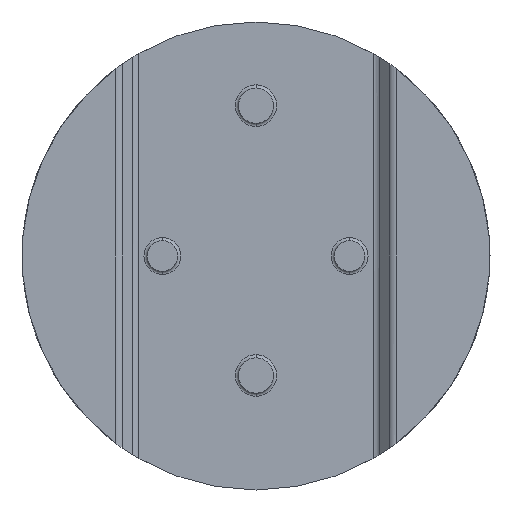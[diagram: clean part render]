
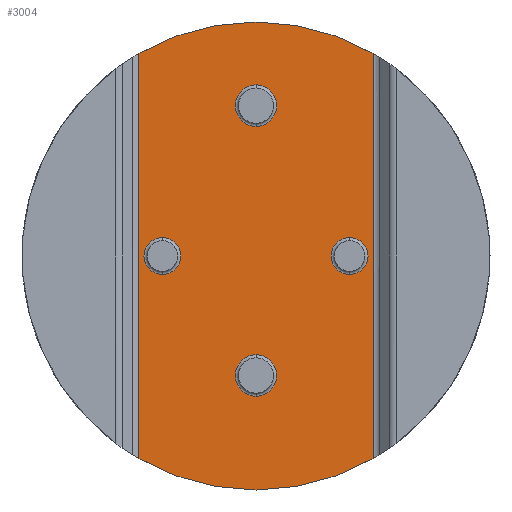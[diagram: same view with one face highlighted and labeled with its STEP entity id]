
A CAD part, front view. The second image highlights one B-rep face of the part: STEP entity #3004.
In plain terms, the highlighted planar face has unit normal (0, -1, 0).
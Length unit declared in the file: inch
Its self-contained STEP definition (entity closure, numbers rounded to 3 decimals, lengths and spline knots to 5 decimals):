
#15 = CIRCLE ( 'NONE', #861, 0.0665 ) ;
#120 = VERTEX_POINT ( 'NONE', #901 ) ;
#124 = DIRECTION ( 'NONE',  ( 0., 0., 1. ) ) ;
#130 = CIRCLE ( 'NONE', #5079, 0.059 ) ;
#392 = DIRECTION ( 'NONE',  ( 0., 0., 1. ) ) ;
#403 = DIRECTION ( 'NONE',  ( 0., 1., 0. ) ) ;
#542 = VERTEX_POINT ( 'NONE', #4634 ) ;
#563 = LINE ( 'NONE', #5897, #5109 ) ;
#641 = ORIENTED_EDGE ( 'NONE', *, *, #2656, .T. ) ;
#723 = VERTEX_POINT ( 'NONE', #2816 ) ;
#861 = AXIS2_PLACEMENT_3D ( 'NONE', #8661, #5967, #7335 ) ;
#864 = DIRECTION ( 'NONE',  ( 0., 0., 1. ) ) ;
#894 = DIRECTION ( 'NONE',  ( 0., 0., 1. ) ) ;
#901 = CARTESIAN_POINT ( 'NONE',  ( 0., -0.201, -0.3165 ) ) ;
#907 = DIRECTION ( 'NONE',  ( 0., 0., 1. ) ) ;
#1012 = FACE_BOUND ( 'NONE', #1248, .T. ) ;
#1059 = EDGE_CURVE ( 'NONE', #1312, #5625, #4929, .T. ) ;
#1248 = EDGE_LOOP ( 'NONE', ( #4102, #8463 ) ) ;
#1260 = VERTEX_POINT ( 'NONE', #5066 ) ;
#1312 = VERTEX_POINT ( 'NONE', #3825 ) ;
#1334 = ORIENTED_EDGE ( 'NONE', *, *, #3203, .T. ) ;
#1373 = ORIENTED_EDGE ( 'NONE', *, *, #5732, .T. ) ;
#1539 = DIRECTION ( 'NONE',  ( 0., 1., 0. ) ) ;
#1558 = CARTESIAN_POINT ( 'NONE',  ( -0.3, -0.201, 0. ) ) ;
#1717 = CIRCLE ( 'NONE', #7798, 0.0665 ) ;
#1720 = EDGE_CURVE ( 'NONE', #3886, #4548, #8168, .T. ) ;
#1797 = AXIS2_PLACEMENT_3D ( 'NONE', #5635, #8327, #2252 ) ;
#1850 = CARTESIAN_POINT ( 'NONE',  ( -0.3, -0.201, 0. ) ) ;
#1856 = AXIS2_PLACEMENT_3D ( 'NONE', #2150, #6971, #7616 ) ;
#1929 = DIRECTION ( 'NONE',  ( 0., 0., 1. ) ) ;
#1948 = EDGE_LOOP ( 'NONE', ( #3253, #2805, #8706, #6546, #1334, #6332 ) ) ;
#2150 = CARTESIAN_POINT ( 'NONE',  ( 0., -0.201, 0.482 ) ) ;
#2252 = DIRECTION ( 'NONE',  ( 0., 0., 1. ) ) ;
#2496 = DIRECTION ( 'NONE',  ( 0., 1., 0. ) ) ;
#2590 = DIRECTION ( 'NONE',  ( 0., 1., 0. ) ) ;
#2656 = EDGE_CURVE ( 'NONE', #8546, #1260, #130, .T. ) ;
#2766 = EDGE_CURVE ( 'NONE', #2925, #120, #7504, .T. ) ;
#2781 = DIRECTION ( 'NONE',  ( 0., 1., 0. ) ) ;
#2805 = ORIENTED_EDGE ( 'NONE', *, *, #5226, .T. ) ;
#2816 = CARTESIAN_POINT ( 'NONE',  ( -0.3, -0.201, -0.059 ) ) ;
#2829 = AXIS2_PLACEMENT_3D ( 'NONE', #1558, #2781, #894 ) ;
#2894 = VERTEX_POINT ( 'NONE', #7063 ) ;
#2925 = VERTEX_POINT ( 'NONE', #5081 ) ;
#2950 = CARTESIAN_POINT ( 'NONE',  ( 0., -0.201, 0.4155 ) ) ;
#3004 = ADVANCED_FACE ( 'NONE', ( #8455, #5038, #7109, #1012, #5168 ), #7834, .F. ) ;
#3203 = EDGE_CURVE ( 'NONE', #1312, #4548, #8010, .T. ) ;
#3238 = AXIS2_PLACEMENT_3D ( 'NONE', #5581, #1539, #124 ) ;
#3253 = ORIENTED_EDGE ( 'NONE', *, *, #5221, .F. ) ;
#3266 = CIRCLE ( 'NONE', #1856, 0.0665 ) ;
#3344 = DIRECTION ( 'NONE',  ( 0., 0., 1. ) ) ;
#3389 = DIRECTION ( 'NONE',  ( 0., 0., 1. ) ) ;
#3399 = CIRCLE ( 'NONE', #4822, 0.75 ) ;
#3417 = CARTESIAN_POINT ( 'NONE',  ( 0.37507, -0.201, -0.64948 ) ) ;
#3730 = ORIENTED_EDGE ( 'NONE', *, *, #2766, .T. ) ;
#3825 = CARTESIAN_POINT ( 'NONE',  ( -0.37507, -0.201, 0.64948 ) ) ;
#3886 = VERTEX_POINT ( 'NONE', #6760 ) ;
#3890 = DIRECTION ( 'NONE',  ( 0., 0., 1. ) ) ;
#4102 = ORIENTED_EDGE ( 'NONE', *, *, #7779, .T. ) ;
#4224 = DIRECTION ( 'NONE',  ( 0., 1., 0. ) ) ;
#4469 = CARTESIAN_POINT ( 'NONE',  ( 0.3, -0.201, 0. ) ) ;
#4548 = VERTEX_POINT ( 'NONE', #8342 ) ;
#4550 = CARTESIAN_POINT ( 'NONE',  ( -0.37507, -0.201, -0.64214 ) ) ;
#4628 = EDGE_LOOP ( 'NONE', ( #6704, #1373 ) ) ;
#4634 = CARTESIAN_POINT ( 'NONE',  ( 0., -0.201, 0.5485 ) ) ;
#4729 = EDGE_CURVE ( 'NONE', #120, #2925, #15, .T. ) ;
#4822 = AXIS2_PLACEMENT_3D ( 'NONE', #5473, #7603, #907 ) ;
#4929 = CIRCLE ( 'NONE', #6081, 0.75 ) ;
#5038 = FACE_BOUND ( 'NONE', #4628, .T. ) ;
#5066 = CARTESIAN_POINT ( 'NONE',  ( 0.3, -0.201, -0.059 ) ) ;
#5079 = AXIS2_PLACEMENT_3D ( 'NONE', #4469, #403, #7758 ) ;
#5081 = CARTESIAN_POINT ( 'NONE',  ( 0., -0.201, -0.4495 ) ) ;
#5109 = VECTOR ( 'NONE', #8680, 39.37008 ) ;
#5168 = FACE_OUTER_BOUND ( 'NONE', #1948, .T. ) ;
#5221 = EDGE_CURVE ( 'NONE', #8751, #3886, #7952, .T. ) ;
#5226 = EDGE_CURVE ( 'NONE', #8751, #2894, #563, .T. ) ;
#5372 = EDGE_LOOP ( 'NONE', ( #5853, #3730 ) ) ;
#5473 = CARTESIAN_POINT ( 'NONE',  ( 0., -0.201, 0. ) ) ;
#5476 = DIRECTION ( 'NONE',  ( 0., 1., 0. ) ) ;
#5488 = ORIENTED_EDGE ( 'NONE', *, *, #7424, .T. ) ;
#5518 = CARTESIAN_POINT ( 'NONE',  ( 0., -0.201, 0.482 ) ) ;
#5581 = CARTESIAN_POINT ( 'NONE',  ( 0., -0.201, -0.383 ) ) ;
#5625 = VERTEX_POINT ( 'NONE', #8031 ) ;
#5635 = CARTESIAN_POINT ( 'NONE',  ( 0., -0.201, 0. ) ) ;
#5666 = CIRCLE ( 'NONE', #8070, 0.059 ) ;
#5732 = EDGE_CURVE ( 'NONE', #723, #6564, #7664, .T. ) ;
#5853 = ORIENTED_EDGE ( 'NONE', *, *, #4729, .T. ) ;
#5897 = CARTESIAN_POINT ( 'NONE',  ( 0.37507, -0.201, 0.64214 ) ) ;
#5942 = CARTESIAN_POINT ( 'NONE',  ( 0., -0.201, 0. ) ) ;
#5967 = DIRECTION ( 'NONE',  ( 0., 1., 0. ) ) ;
#5976 = AXIS2_PLACEMENT_3D ( 'NONE', #6662, #8013, #3344 ) ;
#6081 = AXIS2_PLACEMENT_3D ( 'NONE', #6112, #5476, #1929 ) ;
#6096 = VECTOR ( 'NONE', #6708, 39.37008 ) ;
#6112 = CARTESIAN_POINT ( 'NONE',  ( 0., -0.201, 0. ) ) ;
#6114 = EDGE_CURVE ( 'NONE', #6564, #723, #5666, .T. ) ;
#6150 = CARTESIAN_POINT ( 'NONE',  ( -0.3, -0.201, 0.059 ) ) ;
#6197 = CARTESIAN_POINT ( 'NONE',  ( 0.3, -0.201, 0.059 ) ) ;
#6235 = AXIS2_PLACEMENT_3D ( 'NONE', #7150, #8547, #392 ) ;
#6332 = ORIENTED_EDGE ( 'NONE', *, *, #1720, .F. ) ;
#6546 = ORIENTED_EDGE ( 'NONE', *, *, #1059, .F. ) ;
#6564 = VERTEX_POINT ( 'NONE', #6150 ) ;
#6662 = CARTESIAN_POINT ( 'NONE',  ( 0.3, -0.201, 0. ) ) ;
#6704 = ORIENTED_EDGE ( 'NONE', *, *, #6114, .T. ) ;
#6708 = DIRECTION ( 'NONE',  ( 0., 0., -1. ) ) ;
#6760 = CARTESIAN_POINT ( 'NONE',  ( 0., -0.201, -0.75 ) ) ;
#6971 = DIRECTION ( 'NONE',  ( 0., 1., 0. ) ) ;
#7063 = CARTESIAN_POINT ( 'NONE',  ( 0.37507, -0.201, 0.64948 ) ) ;
#7109 = FACE_BOUND ( 'NONE', #5372, .T. ) ;
#7150 = CARTESIAN_POINT ( 'NONE',  ( -0.3875, -0.201, -0.75 ) ) ;
#7157 = VERTEX_POINT ( 'NONE', #2950 ) ;
#7252 = CIRCLE ( 'NONE', #5976, 0.059 ) ;
#7335 = DIRECTION ( 'NONE',  ( 0., 0., 1. ) ) ;
#7424 = EDGE_CURVE ( 'NONE', #1260, #8546, #7252, .T. ) ;
#7504 = CIRCLE ( 'NONE', #3238, 0.0665 ) ;
#7540 = EDGE_LOOP ( 'NONE', ( #641, #5488 ) ) ;
#7603 = DIRECTION ( 'NONE',  ( 0., 1., 0. ) ) ;
#7616 = DIRECTION ( 'NONE',  ( 0., 0., 1. ) ) ;
#7664 = CIRCLE ( 'NONE', #2829, 0.059 ) ;
#7758 = DIRECTION ( 'NONE',  ( 0., 0., 1. ) ) ;
#7770 = EDGE_CURVE ( 'NONE', #5625, #2894, #3399, .T. ) ;
#7779 = EDGE_CURVE ( 'NONE', #542, #7157, #1717, .T. ) ;
#7798 = AXIS2_PLACEMENT_3D ( 'NONE', #5518, #4224, #864 ) ;
#7834 = PLANE ( 'NONE',  #6235 ) ;
#7952 = CIRCLE ( 'NONE', #8370, 0.75 ) ;
#8010 = LINE ( 'NONE', #4550, #6096 ) ;
#8013 = DIRECTION ( 'NONE',  ( 0., 1., 0. ) ) ;
#8031 = CARTESIAN_POINT ( 'NONE',  ( 0., -0.201, 0.75 ) ) ;
#8070 = AXIS2_PLACEMENT_3D ( 'NONE', #1850, #2590, #3389 ) ;
#8168 = CIRCLE ( 'NONE', #1797, 0.75 ) ;
#8215 = EDGE_CURVE ( 'NONE', #7157, #542, #3266, .T. ) ;
#8327 = DIRECTION ( 'NONE',  ( 0., 1., 0. ) ) ;
#8342 = CARTESIAN_POINT ( 'NONE',  ( -0.37507, -0.201, -0.64948 ) ) ;
#8370 = AXIS2_PLACEMENT_3D ( 'NONE', #5942, #2496, #3890 ) ;
#8455 = FACE_BOUND ( 'NONE', #7540, .T. ) ;
#8463 = ORIENTED_EDGE ( 'NONE', *, *, #8215, .T. ) ;
#8546 = VERTEX_POINT ( 'NONE', #6197 ) ;
#8547 = DIRECTION ( 'NONE',  ( 0., 1., 0. ) ) ;
#8661 = CARTESIAN_POINT ( 'NONE',  ( 0., -0.201, -0.383 ) ) ;
#8680 = DIRECTION ( 'NONE',  ( 0., 0., 1. ) ) ;
#8706 = ORIENTED_EDGE ( 'NONE', *, *, #7770, .F. ) ;
#8751 = VERTEX_POINT ( 'NONE', #3417 ) ;
